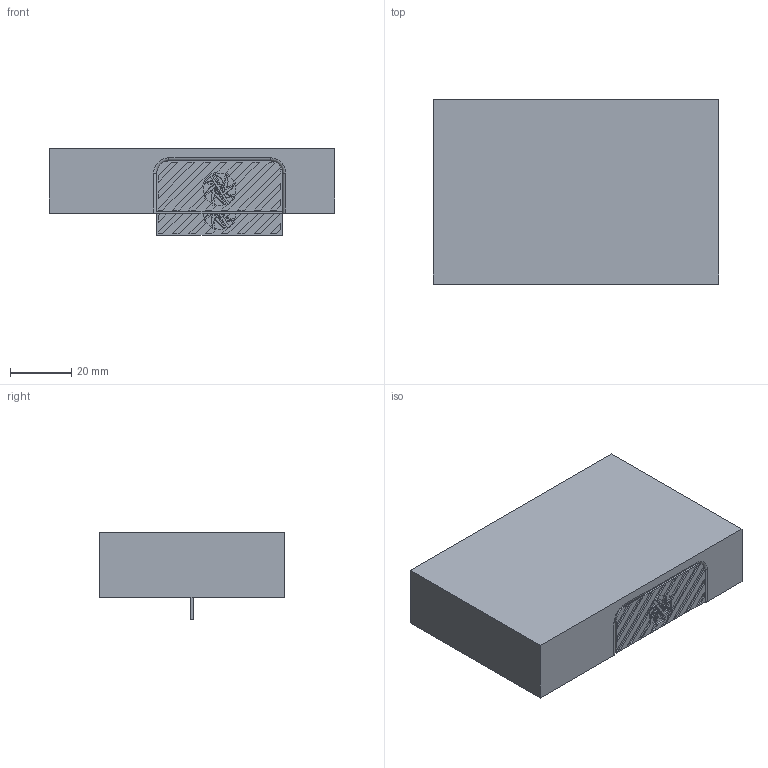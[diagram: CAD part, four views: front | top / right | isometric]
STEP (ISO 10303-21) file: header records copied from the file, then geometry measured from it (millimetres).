
FILE_DESCRIPTION( ( 'Unknown' ), '1' );
FILE_NAME( 'd:/暫存/ALV-3D/ALV-0620/ALV-0620-55~58/ALV-0620-55/ALV-0620-55.stp', 'Unknown', ( 'S.C.H' ), ( 'Unknown' ), 'XStep 1.0', 'Unknown', ' ' );
FILE_SCHEMA( ( 'CONFIG_CONTROL_DESIGN' ) );
Length unit declared in the file: millimetre
Products named in the file (3): Assem1; 1; 2
Bounding box: 93 x 60 x 28.25 mm (x, y, z)
Surface area: 40303.8 mm2
Topology: 5 solids, 5 shells, 567 faces, 1419 edges, 946 vertices
Faces by surface type: plane 395, cylinder 168, torus 4
Entity records: 5899 total; most frequent: CARTESIAN_POINT 1002, DIRECTION 995, ORIENTED_EDGE 966, EDGE_CURVE 483, LINE 365, VECTOR 365, VERTEX_POINT 322, AXIS2_PLACEMENT_3D 315
